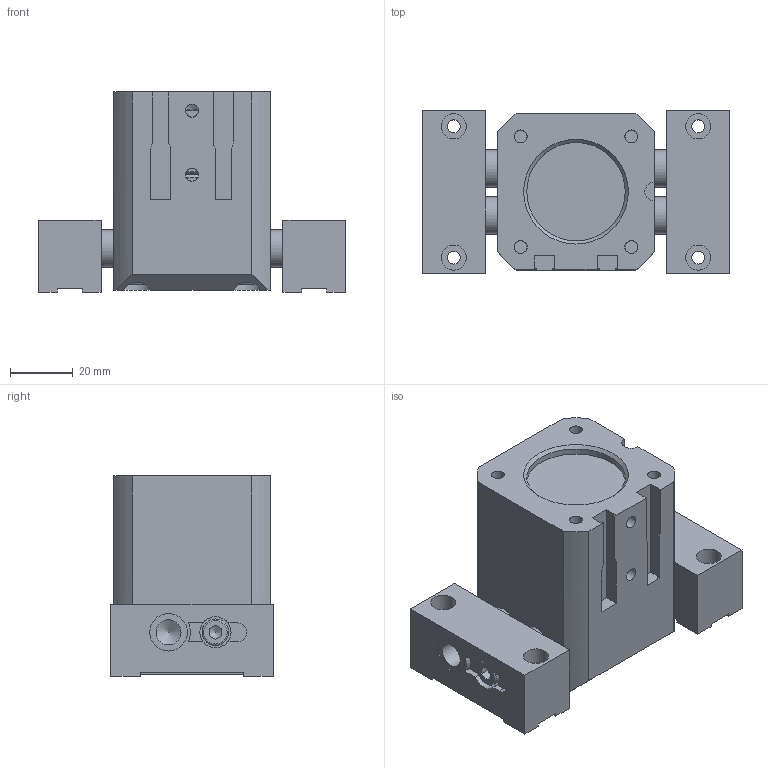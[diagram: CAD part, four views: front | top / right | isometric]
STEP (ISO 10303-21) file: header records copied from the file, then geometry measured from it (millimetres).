
FILE_DESCRIPTION((''),'2;1');
FILE_NAME('T:\CAD\Standard\Daten\3D-Datenbank\GP\4 - 3D-CAD-Daten GP 050-125\GP063\step-Daten\G-GP063-l1-GS+UB open.stp','2013-11-07T14:42:35',('Dirk'),(''),'Autodesk Inventor 2011','Autodesk Inventor 2011','');
FILE_SCHEMA(('AUTOMOTIVE_DESIGN { 1 0 10303 214 1 1 1 1 }'));
Length unit declared in the file: millimetre
Products named in the file (1): Bauteil91
Bounding box: 98.18 x 52 x 64 mm (x, y, z)
Volume: 168159 mm3; surface area: 55316.6 mm2
Topology: 1 solids, 18 shells, 397 faces, 1054 edges, 684 vertices
Faces by surface type: plane 227, cylinder 110, cone 34, torus 22, bspline 4
Full cylindrical faces by diameter (mm): 2.459 x2, 4.134 x12, 5 x2, 5.5 x2, 6.647 x1, 8 x7, 8.5 x7, 10 x8, 12 x8, 14 x7, 16 x2, 18.6 x1, 25 x1, 28.9 x1, 31.5 x1, 33 x1, 33.6 x2, 35.5 x2, 40 x5
Entity records: 13118 total; most frequent: CARTESIAN_POINT 3723, DIRECTION 1834, ORIENTED_EDGE 1694, EDGE_CURVE 847, AXIS2_PLACEMENT_3D 701, VERTEX_POINT 607, EDGE_LOOP 592, VECTOR 432
